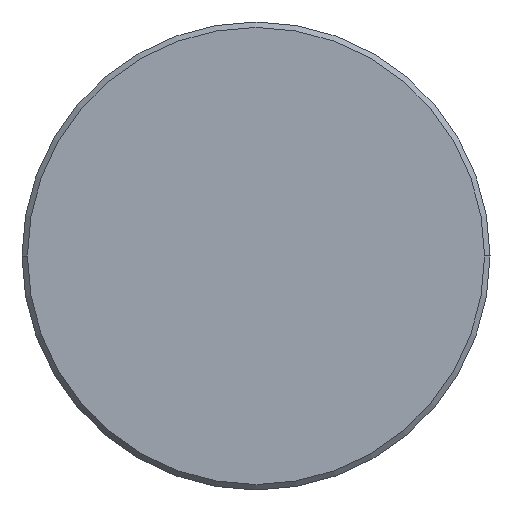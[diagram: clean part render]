
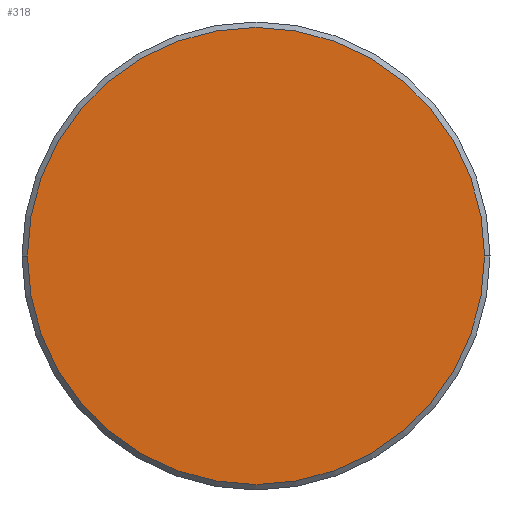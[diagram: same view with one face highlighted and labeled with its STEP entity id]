
A CAD part, left-side view. The second image highlights one B-rep face of the part: STEP entity #318.
In plain terms, the highlighted planar face has unit normal (-1, 0, 0).
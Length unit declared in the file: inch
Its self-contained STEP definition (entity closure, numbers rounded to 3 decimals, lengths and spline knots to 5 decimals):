
#16 = DIRECTION ( 'NONE',  ( -1., 0., 0. ) ) ;
#37 = CARTESIAN_POINT ( 'NONE',  ( 0., 0., 0. ) ) ;
#76 = CIRCLE ( 'NONE', #333, 0.16788 ) ;
#78 = DIRECTION ( 'NONE',  ( -1., 0., 0. ) ) ;
#88 = EDGE_CURVE ( 'NONE', #152, #296, #182, .T. ) ;
#101 = EDGE_CURVE ( 'NONE', #296, #152, #76, .T. ) ;
#142 = EDGE_LOOP ( 'NONE', ( #297, #223 ) ) ;
#144 = DIRECTION ( 'NONE',  ( 0., -1., 0. ) ) ;
#148 = AXIS2_PLACEMENT_3D ( 'NONE', #37, #165, #191 ) ;
#152 = VERTEX_POINT ( 'NONE', #221 ) ;
#165 = DIRECTION ( 'NONE',  ( -1., 0., 0. ) ) ;
#169 = CARTESIAN_POINT ( 'NONE',  ( 0., -0.16788, 0. ) ) ;
#182 = CIRCLE ( 'NONE', #357, 0.16788 ) ;
#191 = DIRECTION ( 'NONE',  ( 0., -1., 0. ) ) ;
#209 = CARTESIAN_POINT ( 'NONE',  ( 0., 0., 0. ) ) ;
#221 = CARTESIAN_POINT ( 'NONE',  ( 0., 0.16788, 0. ) ) ;
#223 = ORIENTED_EDGE ( 'NONE', *, *, #101, .T. ) ;
#227 = PLANE ( 'NONE',  #148 ) ;
#262 = DIRECTION ( 'NONE',  ( 0., -1., 0. ) ) ;
#282 = FACE_OUTER_BOUND ( 'NONE', #142, .T. ) ;
#296 = VERTEX_POINT ( 'NONE', #169 ) ;
#297 = ORIENTED_EDGE ( 'NONE', *, *, #88, .T. ) ;
#318 = ADVANCED_FACE ( 'NONE', ( #282 ), #227, .T. ) ;
#333 = AXIS2_PLACEMENT_3D ( 'NONE', #209, #16, #144 ) ;
#348 = CARTESIAN_POINT ( 'NONE',  ( 0., 0., 0. ) ) ;
#357 = AXIS2_PLACEMENT_3D ( 'NONE', #348, #78, #262 ) ;
